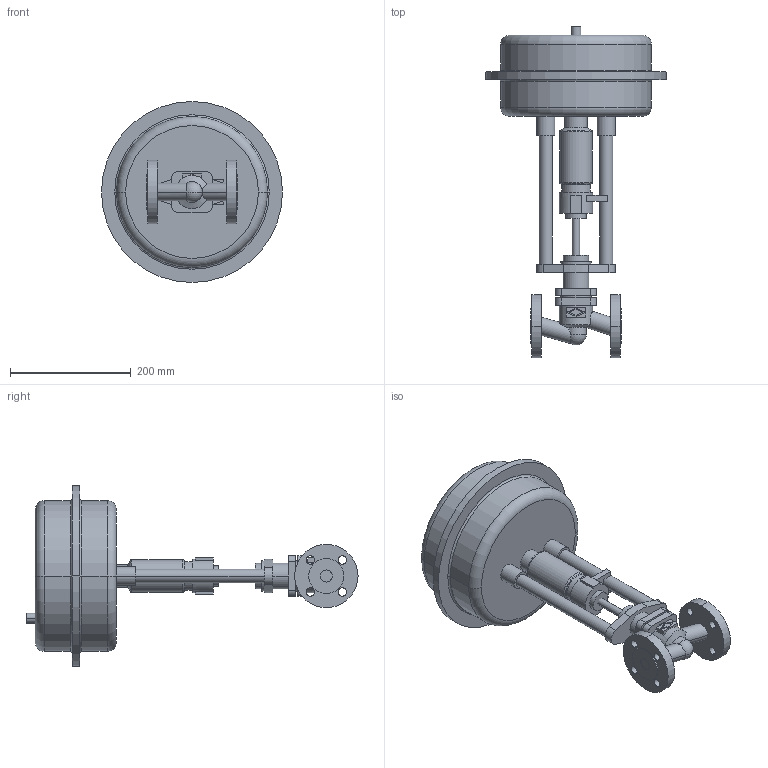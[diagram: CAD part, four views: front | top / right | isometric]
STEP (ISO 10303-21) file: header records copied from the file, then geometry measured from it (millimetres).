
FILE_DESCRIPTION(('OneSpaceDesigner STEP Export'),'2;1');
FILE_NAME('c000001484.stp','2005-02-15T 9:31:02',(''),(''),'OneSpace Designer STEP processor (Jan. 2003) for AP203(Solid Model)','OneSpace Designer 12.01D 09-Jul-2004 (C) CoCreate Software GmbH','');
FILE_SCHEMA(('CONFIG_CONTROL_DESIGN'));
Length unit declared in the file: millimetre
Products named in the file (2): 1; 2
Bounding box: 300 x 550.1 x 300 mm (x, y, z)
Volume: 8026585.9 mm3; surface area: 407456.2 mm2
Topology: 2 solids, 2 shells, 181 faces, 436 edges, 284 vertices
Faces by surface type: cylinder 84, plane 73, torus 16, cone 6, sphere 2
Entity records: 5013 total; most frequent: CARTESIAN_POINT 952, ORIENTED_EDGE 868, DIRECTION 727, EDGE_CURVE 434, VERTEX_POINT 284, AXIS2_PLACEMENT_3D 264, EDGE_LOOP 224, VECTOR 199
